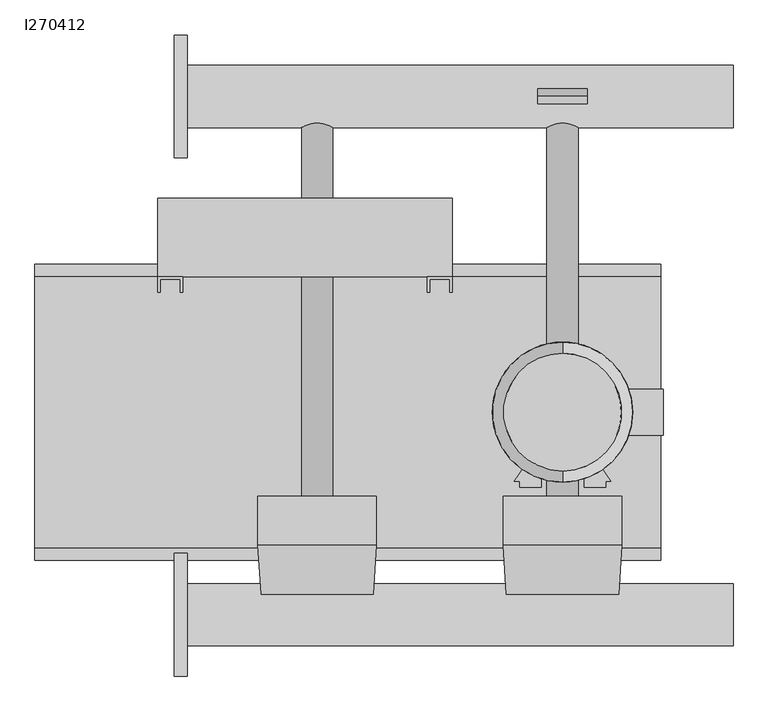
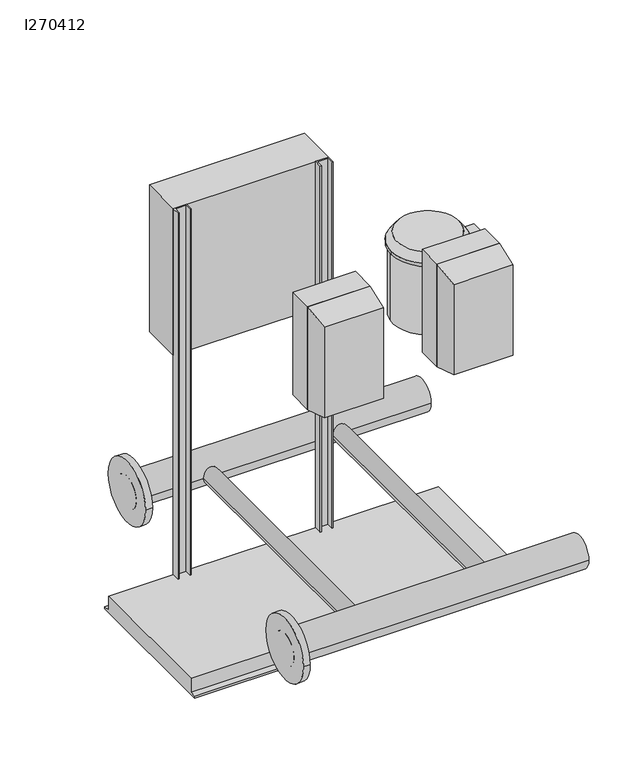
"""IFC4 building model written with IfcOpenShell, lengths in millimetres: proxy geometry, GES Booster Pumps - Armstrong-6800DE2P-SRDR : I270412."""

import ifcopenshell
import ifcopenshell.guid

model = None  # the IFC model being written
_history = None  # IfcOwnerHistory: only IFC2X3 demands one
_inside = {}  # id of a spatial element -> (the spatial element, [elements in it])
_under = {}  # id of a project, library or spatial element -> (it, [spatial elements below it])
_declared = {}  # id of a project -> (the project, [libraries it declares])
_typed = {}  # id of a type object -> (the type object, [elements of that type])
_made_of = {}  # id of a material, layer set ... -> (it, [elements and type objects made of it])


def new_model(schema):
    """Start an empty IFC model of exactly this schema.

    Asked for "IFC4X3", IfcOpenShell would pick the latest addendum, in which some entities
    have other attributes; the version numbers below select the first issue.
    IFC2X3 requires an IfcOwnerHistory on every rooted entity: one is made here for all.
    """
    global model, _history
    if schema == "IFC4X3":
        model = ifcopenshell.file(schema_version=(4, 3, 0, 0))
    else:
        model = ifcopenshell.file(schema=schema)
    _inside.clear()
    _under.clear()
    _declared.clear()
    _typed.clear()
    _made_of.clear()
    _history = None
    if model.schema == "IFC2X3":
        org = make("IfcOrganization", Name="unknown")
        user = make(
            "IfcPersonAndOrganization",
            ThePerson=make("IfcPerson", FamilyName="unknown"),
            TheOrganization=org,
        )
        app = make(
            "IfcApplication",
            ApplicationDeveloper=org,
            Version="unknown",
            ApplicationFullName="unknown",
            ApplicationIdentifier="unknown",
        )
        _history = make(
            "IfcOwnerHistory",
            OwningUser=user,
            OwningApplication=app,
            ChangeAction="ADDED",
            CreationDate=0,
        )
    return model


def make(cls, **values):
    """One entity of the class cls with the attributes given. An attribute that is None is left unset."""
    return model.create_entity(
        cls, **{name: value for name, value in values.items() if value is not None}
    )


def rooted(cls, **values):
    """An entity with a GlobalId (a new one), such as an element, a storey or a relation."""
    return make(cls, GlobalId=ifcopenshell.guid.new(), OwnerHistory=_history, **values)


def si_unit(unit_type, name, prefix=None):
    """IfcSIUnit, for example si_unit("LENGTHUNIT", "METRE", prefix="MILLI")."""
    return make("IfcSIUnit", UnitType=unit_type, Prefix=prefix, Name=name)


def assignment(units):
    """IfcUnitAssignment: the units of a project."""
    return None if units is None else make("IfcUnitAssignment", Units=units)


def point(xyz):
    """IfcCartesianPoint."""
    return None if xyz is None else make("IfcCartesianPoint", Coordinates=xyz)


def direction(xyz):
    """IfcDirection."""
    return None if xyz is None else make("IfcDirection", DirectionRatios=xyz)


def frame(location, z_axis=None, x_axis=None):
    """IfcAxis2Placement3D, a coordinate frame: its origin and axes. An axis left out is left unset."""
    return make(
        "IfcAxis2Placement3D",
        Location=point(location),
        Axis=direction(z_axis),
        RefDirection=direction(x_axis),
    )


def frame_2d(location, x_axis=None):
    """IfcAxis2Placement2D, a coordinate frame in the plane: its origin and x axis."""
    return make(
        "IfcAxis2Placement2D", Location=point(location), RefDirection=direction(x_axis)
    )


def origin():
    """The frame at (0, 0, 0) with its axes left unset."""
    return frame((0.0, 0.0, 0.0))


def origin_with_axes():
    """The frame at (0, 0, 0) with the z axis (0, 0, 1) and the x axis (1, 0, 0) written out."""
    return frame((0.0, 0.0, 0.0), z_axis=(0.0, 0.0, 1.0), x_axis=(1.0, 0.0, 0.0))


def place(relative_to, where):
    """IfcLocalPlacement: puts the frame where relative to a parent placement (None: the world)."""
    return make(
        "IfcLocalPlacement", PlacementRelTo=relative_to, RelativePlacement=where
    )


def context(
    kind, dimensions, precision=None, world=None, true_north=None, identifier=None
):
    """IfcGeometricRepresentationContext, for example the 3D "Model" context."""
    return make(
        "IfcGeometricRepresentationContext",
        ContextIdentifier=identifier,
        ContextType=kind,
        CoordinateSpaceDimension=dimensions,
        Precision=precision,
        WorldCoordinateSystem=world,
        TrueNorth=true_north,
    )


def project(units=None, contexts=None):
    """IfcProject with its units and contexts."""
    return rooted(
        "IfcProject",
        Name="project",
        RepresentationContexts=contexts,
        UnitsInContext=assignment(units),
    )


def spatial(cls, under=None, at=None, **own):
    """A site, building, storey or space (cls), placed at a placement, below another one or the project."""
    s = rooted(cls, ObjectPlacement=at, **own)
    if under is not None:
        _under.setdefault(under.id(), (under, []))[1].append(s)
    return s


def polyline(points):
    """IfcPolyline through the points."""
    return make("IfcPolyline", Points=[point(p) for p in points])


def circle_curve(where, radius):
    """IfcCircle in the frame where."""
    return make("IfcCircle", Position=where, Radius=radius)


def trimmed(basis, trim1, trim2, sense, master):
    """IfcTrimmedCurve: the piece of a basis curve between two trims."""
    return make(
        "IfcTrimmedCurve",
        BasisCurve=basis,
        Trim1=trim1,
        Trim2=trim2,
        SenseAgreement=sense,
        MasterRepresentation=master,
    )


def segment(curve, same_sense, transition):
    """IfcCompositeCurveSegment."""
    return make(
        "IfcCompositeCurveSegment",
        Transition=transition,
        SameSense=same_sense,
        ParentCurve=curve,
    )


def composite_curve(segments, self_intersect=None):
    """IfcCompositeCurve: segments joined end to end."""
    return make("IfcCompositeCurve", Segments=segments, SelfIntersect=self_intersect)


def outline(outer, holes=None, kind="AREA"):
    """IfcArbitraryClosedProfileDef: a profile drawn as a closed curve; with holes, ...WithVoids."""
    if holes is None:
        return make("IfcArbitraryClosedProfileDef", ProfileType=kind, OuterCurve=outer)
    return make(
        "IfcArbitraryProfileDefWithVoids",
        ProfileType=kind,
        OuterCurve=outer,
        InnerCurves=holes,
    )


def extrude(swept, where, along, depth):
    """IfcExtrudedAreaSolid: the profile swept, set in the frame where, extruded along a direction by depth."""
    return make(
        "IfcExtrudedAreaSolid",
        SweptArea=swept,
        Position=where,
        ExtrudedDirection=direction(along),
        Depth=depth,
    )


def faces_of(points, faces, orient=None, outer=None):
    """IfcFace entities. A face is a list of loops; a loop is a list of indices into points, from 0.

    orient and outer hold one flag for each loop. By default every Orientation is true, the
    first loop of a face is its IfcFaceOuterBound and the others are IfcFaceBound.
    """
    made = []
    for i, loops in enumerate(faces):
        bounds = []
        for j, loop in enumerate(loops):
            is_outer = j == 0 if outer is None else outer[i][j]
            bounds.append(
                make(
                    "IfcFaceOuterBound" if is_outer else "IfcFaceBound",
                    Bound=make("IfcPolyLoop", Polygon=[points[k] for k in loop]),
                    Orientation=True if orient is None else orient[i][j],
                )
            )
        made.append(make("IfcFace", Bounds=bounds))
    return made


def faceted_brep(points, faces, orient=None, outer=None, voids=None):
    """IfcFacetedBrep: a solid bounded by flat faces; with voids (closed shells), ...WithVoids."""
    shared = [point(p) for p in points]
    hull = make("IfcClosedShell", CfsFaces=faces_of(shared, faces, orient, outer))
    if voids is None:
        return make("IfcFacetedBrep", Outer=hull)
    return make(
        "IfcFacetedBrepWithVoids",
        Outer=hull,
        Voids=[
            make(cls, CfsFaces=faces_of(shared, fs, o, b)) for cls, fs, o, b in voids
        ],
    )


def shape(context_of_items, identifier, shape_type, items):
    """IfcShapeRepresentation: the items that make up one representation, for example the "Body"."""
    return make(
        "IfcShapeRepresentation",
        ContextOfItems=context_of_items,
        RepresentationIdentifier=identifier,
        RepresentationType=shape_type,
        Items=items,
    )


def source(mapping_origin, context_of_items, identifier, shape_type, items):
    """IfcRepresentationMap: a shape defined once, which mapped items show again and again."""
    return make(
        "IfcRepresentationMap",
        MappingOrigin=mapping_origin,
        MappedRepresentation=shape(context_of_items, identifier, shape_type, items),
    )


def transform(
    local_origin,
    x_axis=None,
    y_axis=None,
    z_axis=None,
    scale=None,
    scale2=None,
    scale3=None,
    uniform=True,
):
    """IfcCartesianTransformationOperator3D, or its non-uniform kind. x_axis, y_axis, z_axis: its Axis1, 2, 3."""
    if uniform:
        return make(
            "IfcCartesianTransformationOperator3D",
            Axis1=direction(x_axis),
            Axis2=direction(y_axis),
            LocalOrigin=point(local_origin),
            Scale=scale,
            Axis3=direction(z_axis),
        )
    return make(
        "IfcCartesianTransformationOperator3DnonUniform",
        Axis1=direction(x_axis),
        Axis2=direction(y_axis),
        LocalOrigin=point(local_origin),
        Scale=scale,
        Axis3=direction(z_axis),
        Scale2=scale2,
        Scale3=scale3,
    )


def mapped(mapping_source, mapping_target):
    """IfcMappedItem: shows the shape of a source again, moved by a transform."""
    return make(
        "IfcMappedItem", MappingSource=mapping_source, MappingTarget=mapping_target
    )


def made_of(thing, what):
    """Note that an element or type object is made of a material, layer set ...; save() writes the relation."""
    if what is not None:
        _made_of.setdefault(what.id(), (what, []))[1].append(thing)
    return thing


def element(
    cls,
    number,
    at=None,
    inside=None,
    cuts=None,
    type_object=None,
    material=None,
    context=None,
    identifier="Body",
    shape_type=None,
    held_by="IfcProductDefinitionShape",
    body=None,
    shapes=None,
    **own,
):
    """One element of the class cls, such as IfcWall. Its Tag is "e" and its number.

    at: its placement. inside: the storey or other place that contains it. cuts: it is an
    opening in that element (IfcRelVoidsElement). A single representation is given by context,
    identifier, shape_type and body (its items); several are given by shapes. held_by: the class
    of the entity that holds the representations. save() writes the other relations.
    """
    e = rooted(cls, Tag="e%d" % number, ObjectPlacement=at, **own)
    if body is not None:
        shapes = [shape(context, identifier, shape_type, body)]
    if shapes is not None:
        e.Representation = make(held_by, Representations=shapes)
    if inside is not None:
        _inside.setdefault(inside.id(), (inside, []))[1].append(e)
    if cuts is not None:
        rooted(
            "IfcRelVoidsElement", RelatingBuildingElement=cuts, RelatedOpeningElement=e
        )
    if type_object is not None:
        _typed.setdefault(type_object.id(), (type_object, []))[1].append(e)
    return made_of(e, material)


def aggregate(whole, parts):
    """IfcRelAggregates: a whole, such as a stair, and the parts it consists of."""
    return rooted("IfcRelAggregates", RelatingObject=whole, RelatedObjects=parts)


def save(model, path):
    """Write the relations noted so far, then the file.

    IfcRelAggregates (storeys below a building ...), IfcRelContainedInSpatialStructure (elements
    in a storey), IfcRelDefinesByType, IfcRelAssociatesMaterial and IfcRelDeclares: one each for
    every whole, place, type object, material and project.
    """
    for whole, parts in _under.values():
        aggregate(whole, parts)
    for where, things in _inside.values():
        rooted(
            "IfcRelContainedInSpatialStructure",
            RelatedElements=things,
            RelatingStructure=where,
        )
    for kind, things in _typed.values():
        rooted("IfcRelDefinesByType", RelatedObjects=things, RelatingType=kind)
    for what, things in _made_of.values():
        rooted("IfcRelAssociatesMaterial", RelatedObjects=things, RelatingMaterial=what)
    for by, libraries in _declared.values():
        rooted("IfcRelDeclares", RelatingContext=by, RelatedDefinitions=libraries)
    model.write(path)


def plane_surface(at):
    """IfcPlane: the flat surface through the origin of the frame at, square to its z axis."""
    return make("IfcPlane", Position=at)


def revolved_surface(curve, axis_point, axis_direction):
    """IfcSurfaceOfRevolution: the curve turned about the line through axis_point along axis_direction."""
    return make(
        "IfcSurfaceOfRevolution",
        SweptCurve=make("IfcArbitraryOpenProfileDef", ProfileType="CURVE", Curve=curve),
        AxisPosition=make("IfcAxis1Placement", Location=point(axis_point), Axis=direction(axis_direction)),
    )


def advanced_brep(points, edges, surfaces, faces):
    """IfcAdvancedBrep: a solid bounded by faces that lie on surfaces and meet in shared edges.

    An edge is (start, end): straight between two places in points (the first is 0);
    or (start, end, curve); or (start, end, curve, False) where it runs against its curve.
    A face is (place in surfaces, loops), or (place, loops, False) where it looks against
    its surface's normal. A loop lists edges by number (the first is 1), with a minus sign
    where the edge is run from its end to its start. The first loop is the outer one.
    """
    corners = [point(p) for p in points]
    vertices = [make("IfcVertexPoint", VertexGeometry=c) for c in corners]
    made = []
    for start, end, *more in edges:
        made.append(
            make(
                "IfcEdgeCurve",
                EdgeStart=vertices[start],
                EdgeEnd=vertices[end],
                EdgeGeometry=more[0] if more else make("IfcPolyline", Points=[corners[start], corners[end]]),
                SameSense=more[1] if len(more) > 1 else True,
            )
        )
    hull = []
    for where, loops, *sense in faces:
        bounds = []
        for j, loop in enumerate(loops):
            ring = [make("IfcOrientedEdge", EdgeElement=made[abs(k) - 1], Orientation=k > 0) for k in loop]
            bounds.append(
                make(
                    "IfcFaceOuterBound" if j == 0 else "IfcFaceBound",
                    Bound=make("IfcEdgeLoop", EdgeList=ring),
                    Orientation=True,
                )
            )
        hull.append(make("IfcAdvancedFace", Bounds=bounds, FaceSurface=surfaces[where], SameSense=sense[0] if sense else True))
    return make("IfcAdvancedBrep", Outer=make("IfcClosedShell", CfsFaces=hull))


def i270412_99a266b8(model_context):
    return source(origin(), model_context, "Body", "SolidModel", [
        extrude(outline(composite_curve([segment(trimmed(circle_curve(frame_2d((233.553, 0.0)), 135.73125), [point((367.2221873, -23.5694842))], [point((99.8838127, 23.5694842))], False, "CARTESIAN"), True, "CONTINUOUS"), segment(trimmed(circle_curve(frame_2d((233.553, 0.0)), 135.73125), [point((99.8838127, 23.5694842))], [point((367.2221873, -23.5694842))], False, "CARTESIAN"), True, "CONTINUOUS")], self_intersect=False)), frame((0.0, 0.0, 1019.048), z_axis=(0.0, 0.0, 1.0), x_axis=(1.0, 0.0, 0.0)), (0.0, 0.0, 1.0), 283.718),
        extrude(outline(composite_curve([segment(polyline([(189.7126, -128.4561853), (189.7126, -153.035), (145.8722, -153.035), (145.8722, -140.335), (135.2893751, -140.335), (155.7007533, -111.1845309)]), True, "CONTINUOUS"), segment(trimmed(circle_curve(frame_2d((233.553, 0.0)), 135.73125), [point((155.7007533, -111.1845309))], [point((189.7126, -128.4561853))], True, "CARTESIAN"), True, "CONTINUOUS")], self_intersect=False)), frame((0.0, 0.0, 1158.5956), z_axis=(0.0, 0.0, 1.0), x_axis=(1.0, 0.0, 0.0)), (0.0, 0.0, 1.0), 106.0704),
        extrude(outline(composite_curve([segment(trimmed(circle_curve(frame_2d((233.553, 0.0)), 135.73125), [point((277.3934, -128.4561853))], [point((311.4052467, -111.1845309))], True, "CARTESIAN"), True, "CONTINUOUS"), segment(polyline([(311.4052467, -111.1845309), (331.8166249, -140.335), (321.2338, -140.335), (321.2338, -153.035), (277.3934, -153.035), (277.3934, -128.4561853)]), True, "CONTINUOUS")], self_intersect=False)), frame((0.0, 0.0, 1158.5956), z_axis=(0.0, 0.0, 1.0), x_axis=(1.0, 0.0, 0.0)), (0.0, 0.0, 1.0), 106.0704),
        extrude(outline(composite_curve([segment(polyline([(438.658, -47.14875), (360.8320933, -47.14875)]), True, "CONTINUOUS"), segment(trimmed(circle_curve(frame_2d((233.553, 0.0)), 135.73125), [point((360.8320933, -47.14875))], [point((360.8320933, 47.14875))], True, "CARTESIAN"), True, "CONTINUOUS"), segment(polyline([(360.8320933, 47.14875), (438.658, 47.14875), (438.658, -47.14875)]), True, "CONTINUOUS")], self_intersect=False)), frame((0.0, 0.0, 1183.0685), z_axis=(0.0, 0.0, 1.0), x_axis=(1.0, 0.0, 0.0)), (0.0, 0.0, 1.0), 94.2975),
        extrude(outline(composite_curve([segment(trimmed(circle_curve(frame_2d((233.553, 0.0)), 142.875), [point((90.678, 0.0))], [point((376.428, 0.0))], False, "CARTESIAN"), True, "CONTINUOUS"), segment(trimmed(circle_curve(frame_2d((233.553, 0.0)), 142.875), [point((376.428, 0.0))], [point((90.678, 0.0))], False, "CARTESIAN"), True, "CONTINUOUS")], self_intersect=False)), frame((0.0, 0.0, 1302.766), z_axis=(0.0, 0.0, 1.0), x_axis=(1.0, 0.0, 0.0)), (0.0, 0.0, 1.0), 12.7),
        advanced_brep(
        [(233.553, -120.015, 1347.216), (233.553, 120.015, 1347.216), (233.553, -142.875, 1315.466), (233.553, 142.875, 1315.466)],
        [
            (0, 1, circle_curve(frame((233.553, 0.0, 1347.216), z_axis=(0.0, 0.0, 1.0), x_axis=(0.0, 1.0000000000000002, 0.0)), 120.015)),
            (1, 0, circle_curve(frame((233.553, 0.0, 1347.216), z_axis=(0.0, 0.0, 1.0), x_axis=(0.0, -1.0000000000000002, 0.0)), 120.015)),
            (2, 3, circle_curve(frame((233.553, 0.0, 1315.466), z_axis=(0.0, 0.0, -1.0), x_axis=(0.0, -1.0000000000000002, 0.0)), 142.875)),
            (3, 2, circle_curve(frame((233.553, 0.0, 1315.466), z_axis=(0.0, 0.0, -1.0), x_axis=(0.0, 1.0000000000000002, 0.0)), 142.875)),
            (2, 0),
            (1, 3),
        ],
        [
            plane_surface(frame((233.553, 0.0, 1347.216), z_axis=(0.0, 0.0, 1.0), x_axis=(-1.0, 0.0, 0.0))),
            plane_surface(frame((233.553, 0.0, 1315.466), z_axis=(0.0, 0.0, -1.0), x_axis=(-1.0, 0.0, 0.0))),
            revolved_surface(polyline([(233.553, -120.01499999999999, 1347.216), (233.553, -142.875, 1315.466)]), (233.553, 0.0, 1513.9035), (0.0, 0.0, -1.0000000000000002)),
            revolved_surface(polyline([(233.553, 120.01499999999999, 1347.216), (233.553, 142.875, 1315.466)]), (233.553, 0.0, 1513.9035), (0.0, 0.0, -1.0000000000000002)),
        ],
        [
            (0, [[1, 2]]),
            (1, [[3, 4]]),
            (2, [[5, -2, 6, -3]]),
            (3, [[-6, -1, -5, -4]]),
        ],
    ),
        extrude(outline(composite_curve([segment(trimmed(circle_curve(frame_2d((233.553, 0.0)), 114.3), [point((233.553, 114.3))], [point((233.553, -114.3))], False, "CARTESIAN"), True, "CONTINUOUS"), segment(trimmed(circle_curve(frame_2d((233.553, 0.0)), 114.3), [point((233.553, -114.3))], [point((233.553, 114.3))], False, "CARTESIAN"), True, "CONTINUOUS")], self_intersect=False)), frame((0.0, 0.0, 1006.348), z_axis=(0.0, 0.0, 1.0), x_axis=(1.0, 0.0, 0.0)), (0.0, 0.0, 1.0), 12.7),
        extrude(outline(composite_curve([segment(trimmed(circle_curve(frame_2d((643.636, 170.688)), 125.0), [point((768.636, 170.688))], [point((518.636, 170.688))], False, "CARTESIAN"), True, "CONTINUOUS"), segment(trimmed(circle_curve(frame_2d((643.636, 170.688)), 125.0), [point((518.636, 170.688))], [point((768.636, 170.688))], False, "CARTESIAN"), True, "CONTINUOUS")], self_intersect=False)), frame((-557.657, 0.0, 0.0), z_axis=(1.0, 0.0, 0.0), x_axis=(0.0, 1.0, 0.0)), (0.0, 0.0, 1.0), 26.0),
        extrude(outline(composite_curve([segment(trimmed(circle_curve(frame_2d((-412.496, 170.688)), 125.0), [point((-287.496, 170.688))], [point((-537.496, 170.688))], False, "CARTESIAN"), True, "CONTINUOUS"), segment(trimmed(circle_curve(frame_2d((-412.496, 170.688)), 125.0), [point((-537.496, 170.688))], [point((-287.496, 170.688))], False, "CARTESIAN"), True, "CONTINUOUS")], self_intersect=False)), frame((-557.657, 0.0, 0.0), z_axis=(1.0, 0.0, 0.0), x_axis=(0.0, 1.0, 0.0)), (0.0, 0.0, 1.0), 26.0),
        extrude(outline(composite_curve([segment(trimmed(circle_curve(frame_2d((233.553, 643.636)), 5.5498841), [point((228.0031159, 643.636))], [point((239.1028841, 643.636))], False, "CARTESIAN"), True, "CONTINUOUS"), segment(trimmed(circle_curve(frame_2d((233.553, 643.636)), 5.5498841), [point((239.1028841, 643.636))], [point((228.0031159, 643.636))], False, "CARTESIAN"), True, "CONTINUOUS")], self_intersect=False)), frame((0.0, 0.0, 261.6056633), z_axis=(0.0, 0.0, 1.0), x_axis=(1.0, 0.0, 0.0)), (0.0, 0.0, 1.0), 52.6991761),
        extrude(outline(composite_curve([segment(trimmed(circle_curve(frame_2d((233.553, 643.636)), 14.4950957), [point((219.0579043, 643.636))], [point((248.0480957, 643.636))], False, "CARTESIAN"), True, "CONTINUOUS"), segment(trimmed(circle_curve(frame_2d((233.553, 643.636)), 14.4950957), [point((248.0480957, 643.636))], [point((219.0579043, 643.636))], False, "CARTESIAN"), True, "CONTINUOUS")], self_intersect=False)), frame((0.0, 0.0, 261.6056633), z_axis=(0.0, 0.0, 1.0), x_axis=(1.0, 0.0, 0.0)), (0.0, 0.0, 1.0), 6.0009805),
        extrude(outline(composite_curve([segment(trimmed(circle_curve(frame_2d((233.553, 643.636)), 13.3299053), [point((246.8829053, 643.636))], [point((220.2230947, 643.636))], False, "CARTESIAN"), True, "CONTINUOUS"), segment(trimmed(circle_curve(frame_2d((233.553, 643.636)), 13.3299053), [point((220.2230947, 643.636))], [point((246.8829053, 643.636))], False, "CARTESIAN"), True, "CONTINUOUS")], self_intersect=False)), frame((0.0, 0.0, 234.188), z_axis=(0.0, 0.0, 1.0), x_axis=(1.0, 0.0, 0.0)), (0.0, 0.0, 1.0), 27.4176633),
        extrude(outline(composite_curve([segment(trimmed(circle_curve(frame_2d((361.188, 233.553)), 50.0591796), [point((361.188, 283.6121796))], [point((361.188, 183.4938204))], False, "CARTESIAN"), True, "CONTINUOUS"), segment(trimmed(circle_curve(frame_2d((361.188, 233.553)), 50.0591796), [point((361.188, 183.4938204))], [point((361.188, 283.6121796))], False, "CARTESIAN"), True, "CONTINUOUS")], self_intersect=False)), frame((0.0, 628.396, 0.0), z_axis=(0.0, 1.0, 0.0), x_axis=(0.0, 0.0, 1.0)), (0.0, 0.0, 1.0), 15.24),
        extrude(outline(composite_curve([segment(trimmed(circle_curve(frame_2d((361.188, 233.553)), 50.0591796), [point((361.188, 183.4938204))], [point((361.188, 283.6121796))], False, "CARTESIAN"), True, "CONTINUOUS"), segment(trimmed(circle_curve(frame_2d((361.188, 233.553)), 50.0591796), [point((361.188, 283.6121796))], [point((361.188, 183.4938204))], False, "CARTESIAN"), True, "CONTINUOUS")], self_intersect=False), holes=[composite_curve([segment(trimmed(circle_curve(frame_2d((361.188, 233.553)), 46.8831606), [point((361.188, 186.6698394))], [point((361.188, 280.4361606))], True, "CARTESIAN"), True, "CONTINUOUS"), segment(trimmed(circle_curve(frame_2d((361.188, 233.553)), 46.8831606), [point((361.188, 280.4361606))], [point((361.188, 186.6698394))], True, "CARTESIAN"), True, "CONTINUOUS")], self_intersect=False)]), frame((0.0, 643.636, 0.0), z_axis=(0.0, 1.0, 0.0), x_axis=(0.0, 0.0, 1.0)), (0.0, 0.0, 1.0), 15.24),
        extrude(outline(polyline([(-216.18575, 25.4), (-209.5793077, 25.4), (-203.8643077, 9.7692308), (-183.2634423, 9.7692308), (-177.5362308, 25.4), (-170.9297885, 25.4), (-190.8956538, -24.6184615), (-196.2198846, -24.6184615), (-216.18575, 25.4)]), holes=[polyline([(-201.5685385, 3.5169231), (-196.6717115, -9.8547115), (-193.5577692, -18.3661538), (-190.0530577, -8.7800962), (-185.547, 3.5169231), (-201.5685385, 3.5169231)])]), origin_with_axes(), (0.0, 0.0, 1.0), 2.54),
        extrude(outline(polyline([(-164.2500769, 25.4), (-157.9977692, 25.4), (-157.9977692, 3.5169231), (-150.4510385, 3.5169231), (-146.8242115, 3.7367308), (-143.8507019, 4.9273558), (-140.5474808, 8.1695192), (-135.8460385, 15.0324038), (-129.3372885, 25.4), (-122.0714231, 25.4), (-130.4119038, 11.8451923), (-135.4796923, 5.4097115), (-139.03325, 2.7353846), (-128.5618558, -1.9172115), (-125.1731538, -10.9293269), (-127.2185865, -18.494375), (-132.6893558, -23.2690865), (-142.6967115, -24.6184615), (-164.2500769, -24.6184615), (-164.2500769, 25.4)]), holes=[polyline([(-157.9977692, -2.7353846), (-157.9977692, -18.3661538), (-142.4280577, -18.3661538), (-134.0692596, -16.2047115), (-131.4254615, -10.6973077), (-132.8114712, -6.4537981), (-136.8657019, -3.6207212), (-144.0033462, -2.7353846), (-157.9977692, -2.7353846)])]), origin_with_axes(), (0.0, 0.0, 1.0), 2.54),
        extrude(outline(polyline([(-114.2316154, 25.4), (-107.9793077, 25.4), (-107.9793077, -18.3661538), (-95.4136346, 25.4), (-86.9388269, 25.4), (-74.3731538, -18.3661538), (-74.3731538, 25.4), (-68.1208462, 25.4), (-68.1208462, -24.6184615), (-78.8792115, -24.6184615), (-88.9415192, 10.0256731), (-91.1762308, 17.9998077), (-93.2399808, 10.63625), (-103.47325, -24.6184615), (-114.2316154, -24.6184615), (-114.2316154, 25.4)])), origin_with_axes(), (0.0, 0.0, 1.0), 2.54),
        extrude(outline(polyline([(-59.5239231, 8.2061538), (-56.8251731, 17.7555769), (-49.7607981, 24.0811538), (-38.5933462, 26.1815385), (-29.1355096, 24.2337981), (-22.6878173, 18.7752404), (-20.447, 11.2956731), (-22.3947404, 4.2251923), (-28.4455577, -0.8425962), (-39.5092115, -3.9809615), (-49.7180577, -7.4734615), (-51.7085385, -11.8085577), (-48.8998846, -16.9984615), (-39.9488269, -19.1476923), (-31.0221923, -16.9740385), (-27.4808462, -10.5507692), (-21.2285385, -10.5507692), (-23.7074808, -18.3783654), (-30.3017115, -23.6171154), (-40.1930577, -25.4), (-49.4616154, -23.6964904), (-55.7932981, -18.7019712), (-57.9608462, -11.6253846), (-56.2084904, -5.4097115), (-50.8903654, -0.7571154), (-41.0906058, 2.3262981), (-31.9869038, 4.7136538), (-27.7372885, 7.5528365), (-26.6993077, 11.4544231), (-28.0853173, 15.6490865), (-32.3044038, 18.7874519), (-38.8375769, 19.9292308), (-46.3354615, 18.4211058), (-51.2567115, 14.4645673), (-53.2716154, 8.2061538), (-59.5239231, 8.2061538)])), origin_with_axes(), (0.0, 0.0, 1.0), 2.54),
        extrude(outline(polyline([(1.4360769, 25.4), (7.6883846, 25.4), (7.6883846, -18.3661538), (24.1006923, -18.3661538), (24.1006923, -24.6184615), (-14.9762308, -24.6184615), (-14.9762308, -18.3661538), (1.4360769, -18.3661538), (1.4360769, 25.4)])), origin_with_axes(), (0.0, 0.0, 1.0), 2.54),
        extrude(outline(polyline([(31.1345385, 25.4), (37.3868462, 25.4), (37.3868462, 3.5169231), (44.9335769, 3.5169231), (48.5604038, 3.7367308), (51.5339135, 4.9273558), (54.8371346, 8.1695192), (59.5385769, 15.0324038), (66.0473269, 25.4), (73.3131923, 25.4), (64.9727115, 11.8451923), (59.9049231, 5.4097115), (56.3513654, 2.7353846), (66.8227596, -1.9172115), (70.2114615, -10.9293269), (68.1660288, -18.494375), (62.6952596, -23.2690865), (52.6879038, -24.6184615), (31.1345385, -24.6184615), (31.1345385, 25.4)]), holes=[polyline([(37.3868462, -2.7353846), (37.3868462, -18.3661538), (52.9565577, -18.3661538), (61.3153558, -16.2047115), (63.9591538, -10.6973077), (62.5731442, -6.4537981), (58.5189135, -3.6207212), (51.3812692, -2.7353846), (37.3868462, -2.7353846)])]), origin_with_axes(), (0.0, 0.0, 1.0), 2.54),
        extrude(outline(polyline([(78.8083846, 1.0501923), (81.6658846, 13.4998558), (90.0674231, 22.780625), (102.6453077, 26.1815385), (114.7530481, 23.1042308), (123.4232404, 14.0432692), (126.4822308, 0.47625), (123.5758846, -12.9075962), (115.1255, -22.1028846), (102.6819423, -25.4), (93.111149, -23.6445913), (85.4758846, -18.3783654), (80.4752596, -10.0104087), (78.8083846, 1.0501923)]), holes=[polyline([(85.0606923, 1.11125), (86.364274, -8.2443149), (90.2750192, -14.4767788), (102.7185769, -19.1476923), (111.8955481, -16.7237019), (118.1051154, -9.8913462), (120.2299231, 0.4274038), (115.2659327, 14.8492308), (102.6086731, 19.9292308), (90.0613173, 14.8980769), (85.0606923, 1.11125)])]), origin_with_axes(), (0.0, 0.0, 1.0), 2.54),
        extrude(outline(polyline([(135.0791538, 25.4), (141.3314615, 25.4), (141.3314615, -14.2386538), (167.4641538, 25.4), (174.1560769, 25.4), (174.1560769, -24.6184615), (167.9037692, -24.6184615), (167.9037692, 15.0079808), (141.7710769, -24.6184615), (135.0791538, -24.6184615), (135.0791538, 25.4)])), origin_with_axes(), (0.0, 0.0, 1.0), 2.54),
        extrude(outline(polyline([(208.5437692, 5.8615385), (222.6114615, 5.8615385), (222.6114615, 14.8980769), (216.2797788, 18.3234135), (207.7255962, 19.9292308), (198.1944904, 17.7983173), (191.3560288, 11.2773558), (189.0053077, 0.3785577), (190.9591538, -9.4395192), (194.1768942, -14.2569712), (199.6232404, -17.7983173), (207.6279038, -19.1476923), (214.6556442, -17.8960096), (219.5280481, -14.5622596), (222.3794423, -8.7800962), (228.1432885, -10.4042308), (224.3638173, -18.6775481), (217.5070385, -23.6232212), (207.7255962, -25.4), (194.5615577, -22.3349038), (185.7997788, -12.9625481), (182.753, 0.635), (185.8119904, 13.9333654), (194.8729519, 23.0370673), (208.2262692, 26.1815385), (218.8319904, 24.2032692), (228.8637692, 18.3050962), (228.8637692, -0.3907692), (208.5437692, -0.3907692), (208.5437692, 5.8615385)])), origin_with_axes(), (0.0, 0.0, 1.0), 2.54),
        extrude(outline(composite_curve([segment(trimmed(circle_curve(frame_2d((170.688, 233.553)), 31.75), [point((170.688, 201.803))], [point((170.688, 265.303))], False, "CARTESIAN"), True, "CONTINUOUS"), segment(trimmed(circle_curve(frame_2d((170.688, 233.553)), 31.75), [point((170.688, 265.303))], [point((170.688, 201.803))], False, "CARTESIAN"), True, "CONTINUOUS")], self_intersect=False)), frame((0.0, -412.496, 0.0), z_axis=(0.0, 1.0, 0.0), x_axis=(0.0, 0.0, 1.0)), (0.0, 0.0, 1.0), 1056.132),
        extrude(outline(composite_curve([segment(trimmed(circle_curve(frame_2d((170.688, -266.573)), 31.75), [point((170.688, -298.323))], [point((170.688, -234.823))], False, "CARTESIAN"), True, "CONTINUOUS"), segment(trimmed(circle_curve(frame_2d((170.688, -266.573)), 31.75), [point((170.688, -234.823))], [point((170.688, -298.323))], False, "CARTESIAN"), True, "CONTINUOUS")], self_intersect=False)), frame((0.0, -412.496, 0.0), z_axis=(0.0, 1.0, 0.0), x_axis=(0.0, 0.0, 1.0)), (0.0, 0.0, 1.0), 1056.132),
        extrude(outline(composite_curve([segment(trimmed(circle_curve(frame_2d((-412.496, 170.688)), 63.5), [point((-348.996, 170.688))], [point((-475.996, 170.688))], False, "CARTESIAN"), True, "CONTINUOUS"), segment(trimmed(circle_curve(frame_2d((-412.496, 170.688)), 63.5), [point((-475.996, 170.688))], [point((-348.996, 170.688))], False, "CARTESIAN"), True, "CONTINUOUS")], self_intersect=False)), frame((-557.657, 0.0, 0.0), z_axis=(1.0, 0.0, 0.0), x_axis=(0.0, 1.0, 0.0)), (0.0, 0.0, 1.0), 1138.682),
        extrude(outline(composite_curve([segment(trimmed(circle_curve(frame_2d((643.636, 170.688)), 63.5), [point((707.136, 170.688))], [point((580.136, 170.688))], False, "CARTESIAN"), True, "CONTINUOUS"), segment(trimmed(circle_curve(frame_2d((643.636, 170.688)), 63.5), [point((580.136, 170.688))], [point((707.136, 170.688))], False, "CARTESIAN"), True, "CONTINUOUS")], self_intersect=False)), frame((-557.657, 0.0, 0.0), z_axis=(1.0, 0.0, 0.0), x_axis=(0.0, 1.0, 0.0)), (0.0, 0.0, 1.0), 1138.682),
        faceted_brep([(-152.273, -371.348, 1394.46), (-380.873, -371.348, 1394.46), (-380.873, -371.348, 1025.398), (-152.273, -371.348, 1025.398), (-145.923, -271.399, 1419.86), (-145.923, -271.399, 999.998), (-387.223, -271.399, 999.998), (-387.223, -271.399, 1419.86)], [[[0, 1, 2, 3]], [[4, 5, 6, 7]], [[4, 0, 3, 5]], [[5, 3, 2, 6]], [[6, 2, 1, 7]], [[7, 1, 0, 4]]]),
        extrude(outline(polyline([(-145.923, -171.45), (-145.923, -271.399), (-387.223, -271.399), (-387.223, -171.45), (-145.923, -171.45)])), frame((0.0, 0.0, 999.998), z_axis=(0.0, 0.0, 1.0), x_axis=(1.0, 0.0, 0.0)), (0.0, 0.0, 1.0), 419.862),
        faceted_brep([(347.853, -371.348, 1394.46), (119.253, -371.348, 1394.46), (119.253, -371.348, 1025.398), (347.853, -371.348, 1025.398), (354.203, -271.399, 1419.86), (354.203, -271.399, 999.998), (112.903, -271.399, 999.998), (112.903, -271.399, 1419.86)], [[[0, 1, 2, 3]], [[4, 5, 6, 7]], [[4, 0, 3, 5]], [[5, 3, 2, 6]], [[6, 2, 1, 7]], [[7, 1, 0, 4]]]),
        extrude(outline(polyline([(354.203, -171.45), (354.203, -271.399), (112.903, -271.399), (112.903, -171.45), (354.203, -171.45)])), frame((0.0, 0.0, 999.998), z_axis=(0.0, 0.0, 1.0), x_axis=(1.0, 0.0, 0.0)), (0.0, 0.0, 1.0), 419.862),
        faceted_brep([(-540.258, 275.844, 1561.084), (-591.058, 275.844, 1561.084), (-591.058, 244.094, 1561.084), (-585.978, 244.094, 1561.084), (-585.978, 270.764, 1561.084), (-545.258, 270.764, 1561.084), (-545.258, 244.094, 1561.084), (-540.258, 244.094, 1561.084), (8.89, 275.844, 1561.084), (-41.91, 275.844, 1561.084), (-41.91, 244.094, 1561.084), (-36.91, 244.094, 1561.084), (-36.91, 270.764, 1561.084), (3.89, 270.764, 1561.084), (3.89, 244.094, 1561.084), (8.89, 244.094, 1561.084), (433.451, -301.244, 0.0), (-841.629, -301.244, 0.0), (-841.629, 301.244, 0.0), (433.451, 301.244, 0.0), (433.451, 301.244, 7.62), (433.451, 275.844, 7.62), (433.451, 275.844, 66.04), (433.451, -275.844, 66.04), (433.451, -275.844, 7.62), (433.451, -301.244, 7.62), (-841.629, -301.244, 7.62), (-841.629, -275.844, 7.62), (-841.629, -275.844, 66.04), (-841.629, 275.844, 66.04), (-841.629, 275.844, 7.62), (-841.629, 301.244, 7.62), (8.89, 275.844, 66.04), (8.89, 244.094, 66.04), (3.89, 244.094, 66.04), (3.89, 270.764, 66.04), (-36.91, 270.764, 66.04), (-36.91, 244.094, 66.04), (-41.91, 244.094, 66.04), (-41.91, 275.844, 66.04), (-540.258, 275.844, 66.04), (-540.258, 244.094, 66.04), (-545.258, 244.094, 66.04), (-545.258, 270.764, 66.04), (-585.978, 270.764, 66.04), (-585.978, 244.094, 66.04), (-591.058, 244.094, 66.04), (-591.058, 275.844, 66.04)], [[[0, 1, 2, 3, 4, 5, 6, 7]], [[8, 9, 10, 11, 12, 13, 14, 15]], [[16, 17, 18, 19]], [[16, 19, 20, 21, 22, 23, 24, 25]], [[17, 26, 27, 28, 29, 30, 31, 18]], [[25, 26, 17, 16]], [[24, 27, 26, 25]], [[23, 28, 27, 24]], [[22, 32, 33, 34, 35, 36, 37, 38, 39, 40, 41, 42, 43, 44, 45, 46, 47, 29, 28, 23]], [[20, 31, 30, 21]], [[19, 18, 31, 20]], [[7, 41, 40, 0]], [[6, 42, 41, 7]], [[5, 43, 42, 6]], [[4, 44, 43, 5]], [[3, 45, 44, 4]], [[2, 46, 45, 3]], [[1, 47, 46, 2]], [[21, 30, 29, 47, 1, 0, 40, 39, 9, 8, 32, 22]], [[15, 33, 32, 8]], [[14, 34, 33, 15]], [[13, 35, 34, 14]], [[12, 36, 35, 13]], [[11, 37, 36, 12]], [[10, 38, 37, 11]], [[9, 39, 38, 10]]]),
        extrude(outline(polyline([(-591.058, 435.864), (8.89, 435.864), (8.89, 275.844), (-591.058, 275.844), (-591.058, 435.864)])), frame((0.0, 0.0, 961.136), z_axis=(0.0, 0.0, 1.0), x_axis=(1.0, 0.0, 0.0)), (0.0, 0.0, 1.0), 599.948),
    ])


if __name__ == "__main__":
    model = new_model("IFC4")
    model_context = context("Model", 3, world=origin())
    ifc_project = project(units=[si_unit("LENGTHUNIT", "METRE", prefix="MILLI")], contexts=[model_context])
    site = spatial("IfcSite", under=ifc_project)
    building = spatial("IfcBuilding", under=site)
    placement = place(None, origin())
    i270412_shape = i270412_99a266b8(model_context)
    element("IfcBuildingElementProxy", 1, Name="GES Booster Pumps - Armstrong-6800DE2P-SRDR : I270412", ObjectType="GES Booster Pumps - Armstrong-6800DE2P-SRDR : I270412", at=placement, inside=building, context=model_context, shape_type="MappedRepresentation", body=[
        mapped(i270412_shape, transform((0.0, 0.0, 0.0), x_axis=(1.0, 0.0, 0.0), y_axis=(0.0, 1.0, 0.0), z_axis=(0.0, 0.0, 1.0))),
    ])
    save(model, "model.ifc")
